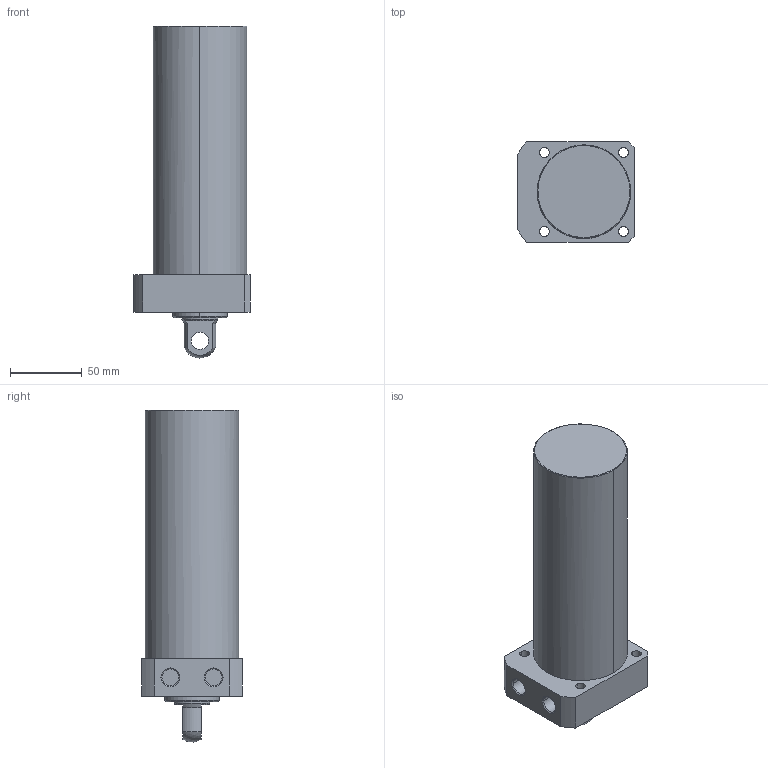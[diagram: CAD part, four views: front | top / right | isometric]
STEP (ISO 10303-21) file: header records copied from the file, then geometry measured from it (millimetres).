
FILE_DESCRIPTION((' '),'2;1');
FILE_NAME( 'TLLR-065CP-140.STEP.stp', '2025-10-24T16:35:04', (' '), ('--- Datakit www.datakit.com---'), ' Datakit CrossCadWare V2024.1 Dec 21 2023', 'Mastercam 2025', ' ');
FILE_SCHEMA(('AUTOMOTIVE_DESIGN { 1 0 10303 214 1 1 1 1 }'));
Length unit declared in the file: millimetre
Products named in the file (1): TLLR-065CP-140
Bounding box: 81 x 70 x 230.92 mm (x, y, z)
Volume: 721697.9 mm3; surface area: 59691.2 mm2
Topology: 1 solids, 1 shells, 57 faces, 164 edges, 116 vertices
Faces by surface type: cylinder 28, plane 18, cone 8, torus 2, sphere 1
Entity records: 2006 total; most frequent: DIRECTION 378, CARTESIAN_POINT 350, ORIENTED_EDGE 328, EDGE_CURVE 164, AXIS2_PLACEMENT_3D 160, VERTEX_POINT 116, CIRCLE 102, EDGE_LOOP 74
